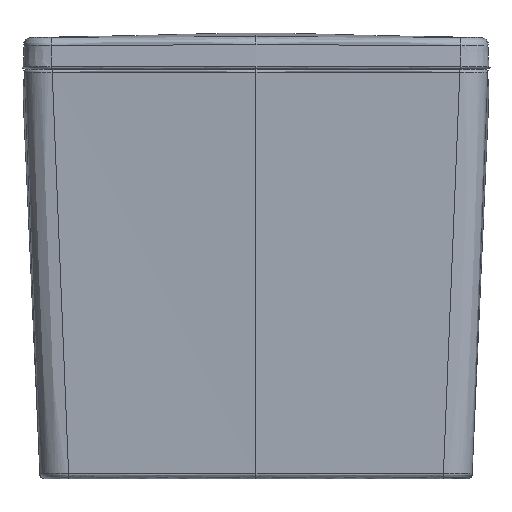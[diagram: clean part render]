
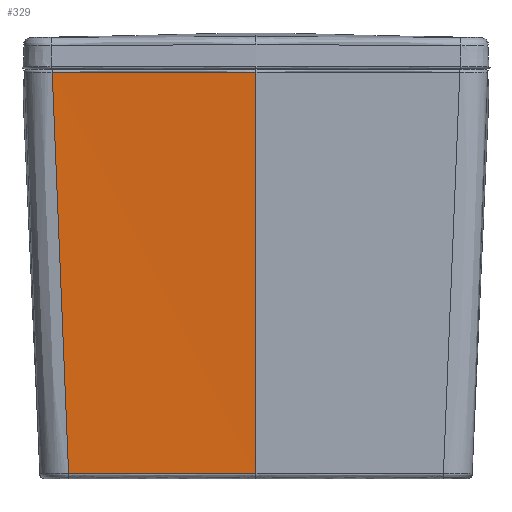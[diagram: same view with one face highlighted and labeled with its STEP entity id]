
A CAD part, front view. The second image highlights one B-rep face of the part: STEP entity #329.
In plain terms, the highlighted free-form (B-spline) face has degree [3, 3] with [5, 8] control points.
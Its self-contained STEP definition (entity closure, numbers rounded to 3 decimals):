
#329=ADVANCED_FACE('',(#472),#398,.F.);
#398=B_SPLINE_SURFACE_WITH_KNOTS('',3,3,((#5890,#5891,#5892,#5893,#5894,
#5895,#5896,#5897),(#5898,#5899,#5900,#5901,#5902,#5903,#5904,#5905),(#5906,
#5907,#5908,#5909,#5910,#5911,#5912,#5913),(#5914,#5915,#5916,#5917,#5918,
#5919,#5920,#5921),(#5922,#5923,#5924,#5925,#5926,#5927,#5928,#5929)),
 .UNSPECIFIED.,.F.,.F.,.F.,(4,1,4),(4,1,2,1,4),(0.,0.499,1.),
(0.,0.167,0.5,0.833,1.),.UNSPECIFIED.);
#472=FACE_OUTER_BOUND('',#584,.T.);
#584=EDGE_LOOP('',(#917,#918,#919,#920));
#917=ORIENTED_EDGE('',*,*,#1418,.T.);
#918=ORIENTED_EDGE('',*,*,#1445,.T.);
#919=ORIENTED_EDGE('',*,*,#1446,.T.);
#920=ORIENTED_EDGE('',*,*,#1322,.T.);
#1172=VERTEX_POINT('',#3518);
#1173=VERTEX_POINT('',#3523);
#1229=VERTEX_POINT('',#5534);
#1244=VERTEX_POINT('',#5885);
#1322=EDGE_CURVE('',#1173,#1172,#1556,.T.);
#1418=EDGE_CURVE('',#1172,#1229,#1611,.T.);
#1445=EDGE_CURVE('',#1229,#1244,#1618,.T.);
#1446=EDGE_CURVE('',#1244,#1173,#1619,.T.);
#1556=B_SPLINE_CURVE_WITH_KNOTS('',3,(#3519,#3520,#3521,#3522),
 .UNSPECIFIED.,.F.,.F.,(4,4),(0.,1.),.UNSPECIFIED.);
#1611=B_SPLINE_CURVE_WITH_KNOTS('',3,(#5535,#5536,#5537,#5538),
 .UNSPECIFIED.,.F.,.F.,(4,4),(0.,1.),.UNSPECIFIED.);
#1618=B_SPLINE_CURVE_WITH_KNOTS('',3,(#5879,#5880,#5881,#5882,#5883,#5884),
 .UNSPECIFIED.,.F.,.F.,(4,2,4),(0.,0.494,1.),.UNSPECIFIED.);
#1619=B_SPLINE_CURVE_WITH_KNOTS('',3,(#5886,#5887,#5888,#5889),
 .UNSPECIFIED.,.F.,.F.,(4,4),(0.,1.),.UNSPECIFIED.);
#3518=CARTESIAN_POINT('',(-156.391,-141.183,-364.084));
#3519=CARTESIAN_POINT('',(-170.06,-147.741,-29.435));
#3520=CARTESIAN_POINT('',(-167.446,-146.818,-146.571));
#3521=CARTESIAN_POINT('',(-162.713,-144.468,-258.128));
#3522=CARTESIAN_POINT('',(-156.391,-141.183,-364.084));
#3523=CARTESIAN_POINT('',(-170.06,-147.741,-29.435));
#5534=CARTESIAN_POINT('',(0.,-142.714,-364.124));
#5535=CARTESIAN_POINT('',(-156.391,-141.183,-364.084));
#5536=CARTESIAN_POINT('',(-104.27,-142.204,-364.11));
#5537=CARTESIAN_POINT('',(-52.14,-142.714,-364.124));
#5538=CARTESIAN_POINT('',(0.,-142.714,-364.124));
#5879=CARTESIAN_POINT('',(0.,-142.714,-364.124));
#5880=CARTESIAN_POINT('',(0.,-144.928,-309.072));
#5881=CARTESIAN_POINT('',(0.,-146.857,-254.011));
#5882=CARTESIAN_POINT('',(0.,-150.066,-142.46));
#5883=CARTESIAN_POINT('',(0.,-151.337,-85.969));
#5884=CARTESIAN_POINT('',(0.,-152.224,-29.475));
#5885=CARTESIAN_POINT('',(0.,-152.224,-29.475));
#5886=CARTESIAN_POINT('',(0.,-152.224,-29.475));
#5887=CARTESIAN_POINT('',(-56.493,-152.224,-29.475));
#5888=CARTESIAN_POINT('',(-113.179,-150.74,-29.462));
#5889=CARTESIAN_POINT('',(-170.06,-147.741,-29.435));
#5890=CARTESIAN_POINT('',(-520.968,-113.083,56.095));
#5891=CARTESIAN_POINT('',(-517.442,-114.729,27.755));
#5892=CARTESIAN_POINT('',(-506.864,-119.451,-57.263));
#5893=CARTESIAN_POINT('',(-496.285,-123.304,-142.276));
#5894=CARTESIAN_POINT('',(-482.178,-127.728,-255.612));
#5895=CARTESIAN_POINT('',(-471.597,-130.498,-340.602));
#5896=CARTESIAN_POINT('',(-461.012,-132.594,-425.571));
#5897=CARTESIAN_POINT('',(-457.484,-133.237,-453.893));
#5898=CARTESIAN_POINT('',(-405.404,-127.05,56.095));
#5899=CARTESIAN_POINT('',(-402.66,-128.029,27.755));
#5900=CARTESIAN_POINT('',(-394.428,-130.749,-57.263));
#5901=CARTESIAN_POINT('',(-386.195,-132.601,-142.276));
#5902=CARTESIAN_POINT('',(-375.217,-134.356,-255.612));
#5903=CARTESIAN_POINT('',(-366.983,-135.124,-340.602));
#5904=CARTESIAN_POINT('',(-358.749,-135.218,-425.571));
#5905=CARTESIAN_POINT('',(-356.004,-135.193,-453.893));
#5906=CARTESIAN_POINT('',(-173.659,-155.059,56.095));
#5907=CARTESIAN_POINT('',(-172.482,-154.7,27.755));
#5908=CARTESIAN_POINT('',(-168.953,-153.406,-57.263));
#5909=CARTESIAN_POINT('',(-165.425,-151.243,-142.276));
#5910=CARTESIAN_POINT('',(-160.722,-147.646,-255.612));
#5911=CARTESIAN_POINT('',(-157.197,-144.4,-340.602));
#5912=CARTESIAN_POINT('',(-153.674,-140.48,-425.571));
#5913=CARTESIAN_POINT('',(-152.5,-139.117,-453.893));
#5914=CARTESIAN_POINT('',(58.093,-155.059,56.095));
#5915=CARTESIAN_POINT('',(57.699,-154.7,27.755));
#5916=CARTESIAN_POINT('',(56.518,-153.406,-57.263));
#5917=CARTESIAN_POINT('',(55.338,-151.243,-142.276));
#5918=CARTESIAN_POINT('',(53.765,-147.646,-255.612));
#5919=CARTESIAN_POINT('',(52.586,-144.4,-340.602));
#5920=CARTESIAN_POINT('',(51.407,-140.48,-425.571));
#5921=CARTESIAN_POINT('',(51.014,-139.117,-453.893));
#5922=CARTESIAN_POINT('',(174.276,-148.019,56.095));
#5923=CARTESIAN_POINT('',(173.096,-147.997,27.755));
#5924=CARTESIAN_POINT('',(169.556,-147.712,-57.263));
#5925=CARTESIAN_POINT('',(166.016,-146.558,-142.276));
#5926=CARTESIAN_POINT('',(161.297,-144.306,-255.612));
#5927=CARTESIAN_POINT('',(157.758,-142.069,-340.602));
#5928=CARTESIAN_POINT('',(154.22,-139.158,-425.571));
#5929=CARTESIAN_POINT('',(153.041,-138.131,-453.893));
